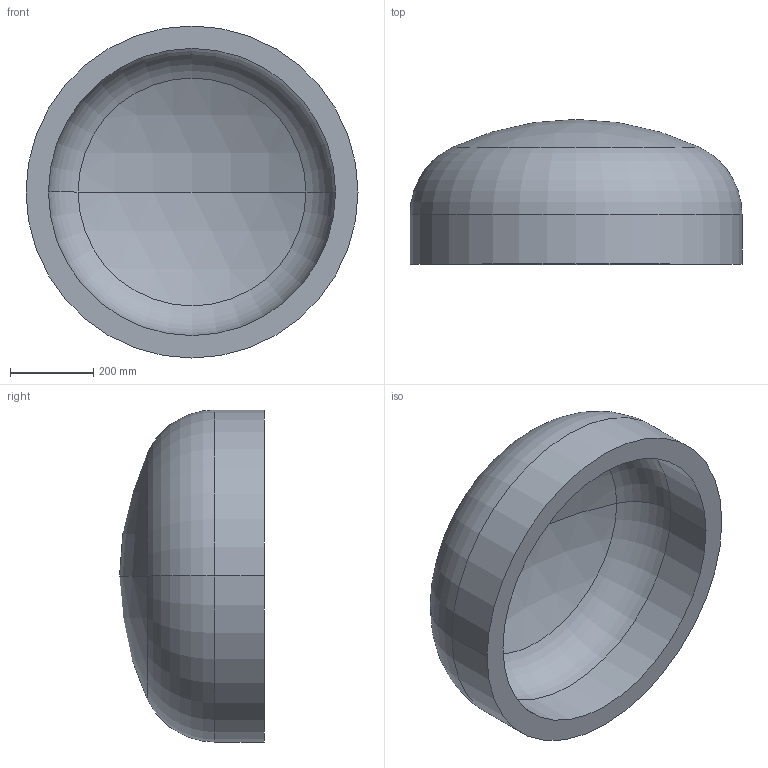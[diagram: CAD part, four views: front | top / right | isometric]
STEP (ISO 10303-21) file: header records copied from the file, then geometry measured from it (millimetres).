
FILE_DESCRIPTION (( 'STEP AP203' ), '1' );
FILE_NAME ('DIN 28013 Korbbogenform_-_Boden DIN 28013 - 800 x 120 - I - s=54.step', '2016-07-01T08:18:48', ( '' ), ( '' ), 'SwSTEP 2.0', 'SolidWorks 2013', '' );
FILE_SCHEMA (( 'CONFIG_CONTROL_DESIGN' ));
Length unit declared in the file: millimetre
Products named in the file (1): DIN 28013 Korbbogenform_-_Boden DIN 28013 - 800 x 120 - I - s=54
Bounding box: 800 x 348.83 x 800 mm (x, y, z)
Volume: 49802727.7 mm3; surface area: 1977208.3 mm2
Topology: 1 solids, 1 shells, 13 faces, 24 edges, 14 vertices
Faces by surface type: torus 4, cylinder 4, sphere 4, plane 1
Entity records: 407 total; most frequent: DIRECTION 72, CARTESIAN_POINT 52, ORIENTED_EDGE 48, AXIS2_PLACEMENT_3D 34, EDGE_CURVE 24, CIRCLE 20, VERTEX_POINT 14, EDGE_LOOP 14
